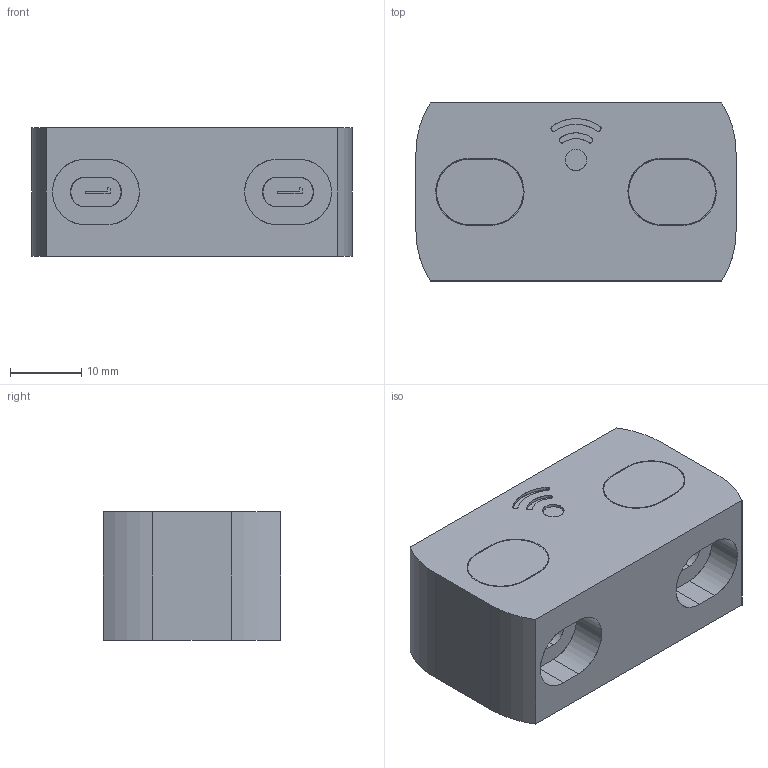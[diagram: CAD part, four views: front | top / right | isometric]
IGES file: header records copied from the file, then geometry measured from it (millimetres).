
Global section: file name: 3DCAD_RD800_x_Actuator.igs; native system: NX V2306; preprocessor: SIEMENS PLM Software NX2306.9180; date: 20250826.134951; units: millimetre
Bounding box: 45 x 25 x 18 mm (x, y, z)
Surface area: 10127.3 mm2 (no closed solid volume)
Topology: 0 solids, 0 shells, 394 faces, 2357 edges, 2390 vertices
Faces by surface type: bspline 394
